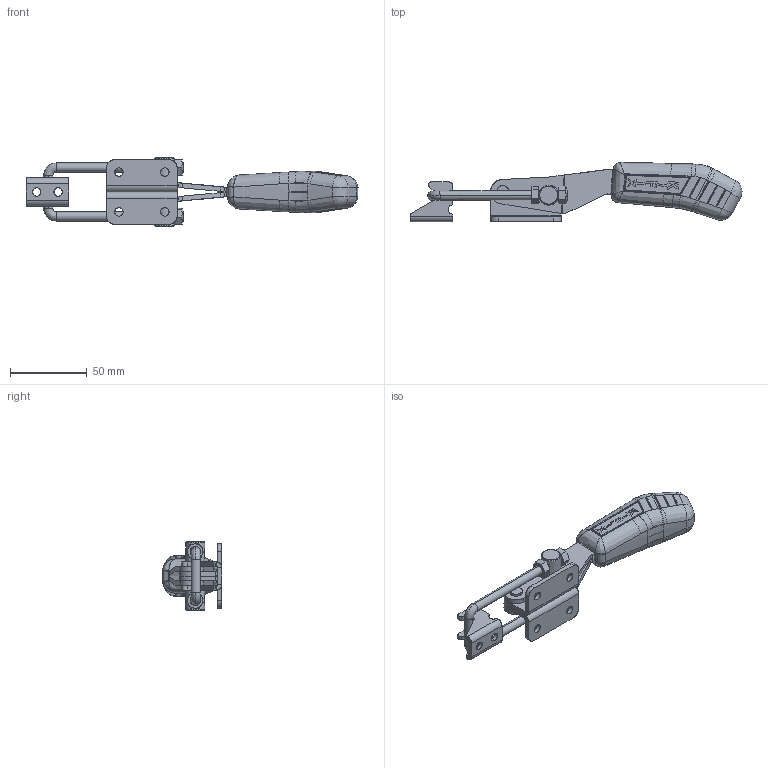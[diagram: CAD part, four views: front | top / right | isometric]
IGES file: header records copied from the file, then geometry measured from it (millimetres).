
Start section: SolidWorks IGES file using analytic representation for surfaces
Global section: file name: C:\Projetos\Grampos\KF-843\KF-843 D\KF-843 D.IGS; native system: SolidWorks 2013; preprocessor: SolidWorks 2013; author: Ricardo; date: 140820.174921; units: millimetre
Bounding box: 216.88 x 38.72 x 45 mm (x, y, z)
Surface area: 40697.9 mm2 (no closed solid volume)
Topology: 0 solids, 0 shells, 626 faces, 6531 edges, 6524 vertices
Faces by surface type: bspline 391, revolution 235
